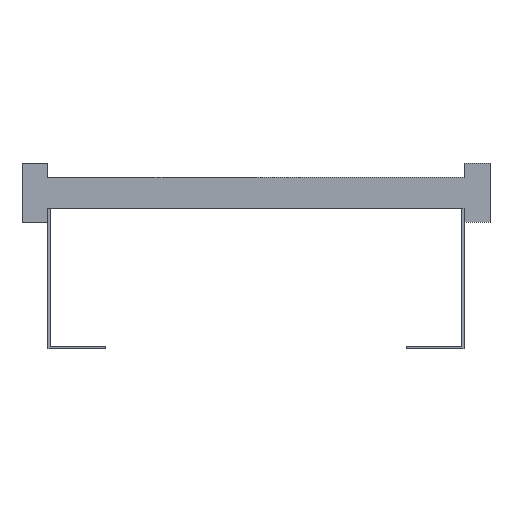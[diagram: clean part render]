
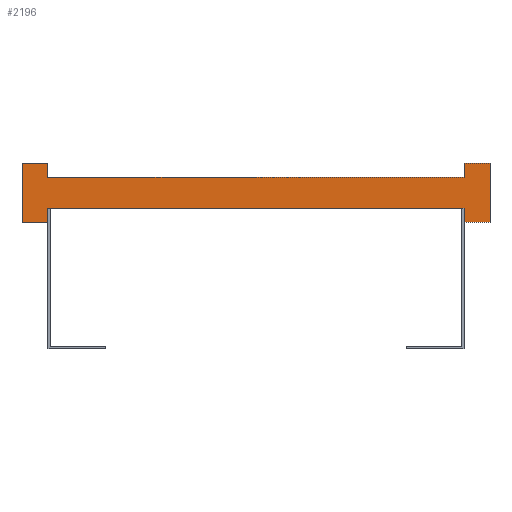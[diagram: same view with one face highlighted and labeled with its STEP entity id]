
A CAD part, front view. The second image highlights one B-rep face of the part: STEP entity #2196.
In plain terms, the highlighted planar face has unit normal (0, -1, 0).
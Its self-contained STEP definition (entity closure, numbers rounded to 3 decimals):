
#1=DIRECTION('',(0.,0.,1.));
#2=VECTOR('',#1,13.5);
#3=CARTESIAN_POINT('',(200.,0.,-28.5));
#4=LINE('',#3,#2);
#5=DIRECTION('',(0.,0.,-1.));
#6=VECTOR('',#5,13.5);
#7=CARTESIAN_POINT('',(-200.,0.,-15.));
#8=LINE('',#7,#6);
#9=DIRECTION('',(-1.,0.,0.));
#10=VECTOR('',#9,25.);
#11=CARTESIAN_POINT('',(-200.,0.,-28.5));
#12=LINE('',#11,#10);
#13=DIRECTION('',(0.,0.,1.));
#14=VECTOR('',#13,57.);
#15=CARTESIAN_POINT('',(-225.,0.,-28.5));
#16=LINE('',#15,#14);
#17=DIRECTION('',(1.,0.,0.));
#18=VECTOR('',#17,25.);
#19=CARTESIAN_POINT('',(-225.,0.,28.5));
#20=LINE('',#19,#18);
#21=DIRECTION('',(0.,0.,-1.));
#22=VECTOR('',#21,13.5);
#23=CARTESIAN_POINT('',(-200.,0.,28.5));
#24=LINE('',#23,#22);
#25=DIRECTION('',(0.,0.,1.));
#26=VECTOR('',#25,13.5);
#27=CARTESIAN_POINT('',(200.,0.,15.));
#28=LINE('',#27,#26);
#29=DIRECTION('',(1.,0.,0.));
#30=VECTOR('',#29,25.);
#31=CARTESIAN_POINT('',(200.,0.,28.5));
#32=LINE('',#31,#30);
#33=DIRECTION('',(0.,0.,-1.));
#34=VECTOR('',#33,57.);
#35=CARTESIAN_POINT('',(225.,0.,28.5));
#36=LINE('',#35,#34);
#37=DIRECTION('',(-1.,0.,0.));
#38=VECTOR('',#37,25.);
#39=CARTESIAN_POINT('',(225.,0.,-28.5));
#40=LINE('',#39,#38);
#1617=DIRECTION('',(1.,0.,0.));
#1618=VECTOR('',#1617,400.);
#1619=CARTESIAN_POINT('',(-200.,0.,-15.));
#1620=LINE('',#1619,#1618);
#1629=DIRECTION('',(1.,0.,0.));
#1630=VECTOR('',#1629,400.);
#1631=CARTESIAN_POINT('',(-200.,0.,15.));
#1632=LINE('',#1631,#1630);
#1633=CARTESIAN_POINT('',(-225.,0.,28.5));
#1634=CARTESIAN_POINT('',(-200.,0.,28.5));
#1635=VERTEX_POINT('',#1633);
#1636=VERTEX_POINT('',#1634);
#1637=CARTESIAN_POINT('',(-200.,0.,-28.5));
#1638=CARTESIAN_POINT('',(-225.,0.,-28.5));
#1639=VERTEX_POINT('',#1637);
#1640=VERTEX_POINT('',#1638);
#1641=CARTESIAN_POINT('',(225.,0.,28.5));
#1642=CARTESIAN_POINT('',(225.,0.,-28.5));
#1643=VERTEX_POINT('',#1641);
#1644=VERTEX_POINT('',#1642);
#1645=CARTESIAN_POINT('',(200.,0.,-28.5));
#1646=VERTEX_POINT('',#1645);
#1647=CARTESIAN_POINT('',(200.,0.,28.5));
#1648=VERTEX_POINT('',#1647);
#1665=CARTESIAN_POINT('',(-200.,0.,-15.));
#1667=VERTEX_POINT('',#1665);
#1669=CARTESIAN_POINT('',(-200.,0.,15.));
#1671=VERTEX_POINT('',#1669);
#1673=CARTESIAN_POINT('',(200.,0.,-15.));
#1675=VERTEX_POINT('',#1673);
#1677=CARTESIAN_POINT('',(200.,0.,15.));
#1679=VERTEX_POINT('',#1677);
#2165=CARTESIAN_POINT('',(0.,0.,0.));
#2166=DIRECTION('',(0.,1.,0.));
#2167=DIRECTION('',(1.,0.,0.));
#2168=AXIS2_PLACEMENT_3D('',#2165,#2166,#2167);
#2169=PLANE('',#2168);
#2171=ORIENTED_EDGE('',*,*,#2170,.T.);
#2173=ORIENTED_EDGE('',*,*,#2172,.F.);
#2175=ORIENTED_EDGE('',*,*,#2174,.T.);
#2177=ORIENTED_EDGE('',*,*,#2176,.T.);
#2179=ORIENTED_EDGE('',*,*,#2178,.T.);
#2181=ORIENTED_EDGE('',*,*,#2180,.T.);
#2183=ORIENTED_EDGE('',*,*,#2182,.T.);
#2185=ORIENTED_EDGE('',*,*,#2184,.T.);
#2187=ORIENTED_EDGE('',*,*,#2186,.T.);
#2189=ORIENTED_EDGE('',*,*,#2188,.T.);
#2191=ORIENTED_EDGE('',*,*,#2190,.T.);
#2193=ORIENTED_EDGE('',*,*,#2192,.T.);
#2194=EDGE_LOOP('',(#2171,#2173,#2175,#2177,#2179,#2181,#2183,#2185,#2187,#2189,
#2191,#2193));
#2195=FACE_OUTER_BOUND('',#2194,.F.);
#2196=ADVANCED_FACE('',(#2195),#2169,.F.);
#2170=EDGE_CURVE('',#1646,#1675,#4,.T.);
#2172=EDGE_CURVE('',#1667,#1675,#1620,.T.);
#2174=EDGE_CURVE('',#1667,#1639,#8,.T.);
#2176=EDGE_CURVE('',#1639,#1640,#12,.T.);
#2178=EDGE_CURVE('',#1640,#1635,#16,.T.);
#2180=EDGE_CURVE('',#1635,#1636,#20,.T.);
#2182=EDGE_CURVE('',#1636,#1671,#24,.T.);
#2184=EDGE_CURVE('',#1671,#1679,#1632,.T.);
#2186=EDGE_CURVE('',#1679,#1648,#28,.T.);
#2188=EDGE_CURVE('',#1648,#1643,#32,.T.);
#2190=EDGE_CURVE('',#1643,#1644,#36,.T.);
#2192=EDGE_CURVE('',#1644,#1646,#40,.T.);
